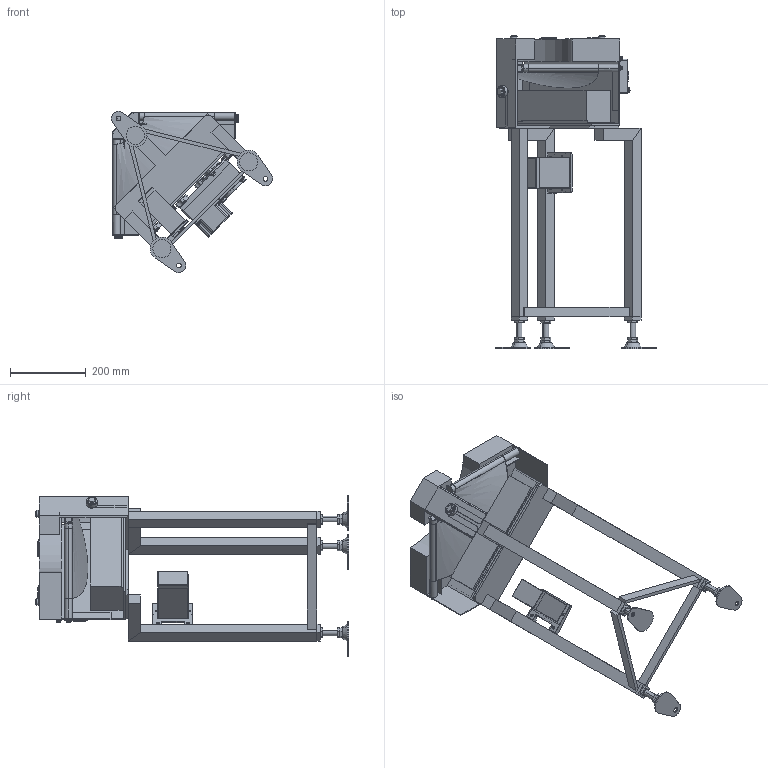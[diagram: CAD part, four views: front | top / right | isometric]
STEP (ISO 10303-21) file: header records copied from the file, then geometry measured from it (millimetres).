
FILE_DESCRIPTION (( 'STEP AP214' ), '1' );
FILE_NAME ('GBC90-HS100-DC-R.STEP', '2024-01-18T00:10:53', ( '' ), ( '' ), 'SwSTEP 2.0', 'SolidWorks 2017', '' );
FILE_SCHEMA (( 'AUTOMOTIVE_DESIGN' ));
Length unit declared in the file: millimetre
Products named in the file (1): GBC90-HS100-DC-R
Bounding box: 426.08 x 827.92 x 426.08 mm (x, y, z)
Volume: 10838079.1 mm3; surface area: 1645877.7 mm2
Topology: 73 solids, 73 shells, 1461 faces, 3377 edges, 2124 vertices
Faces by surface type: plane 787, cylinder 404, cone 151, bspline 69, torus 40, sphere 10
Entity records: 50308 total; most frequent: CARTESIAN_POINT 16342, DIRECTION 6899, ORIENTED_EDGE 6698, EDGE_CURVE 3349, AXIS2_PLACEMENT_3D 2493, VERTEX_POINT 2124, LINE 1913, VECTOR 1913
